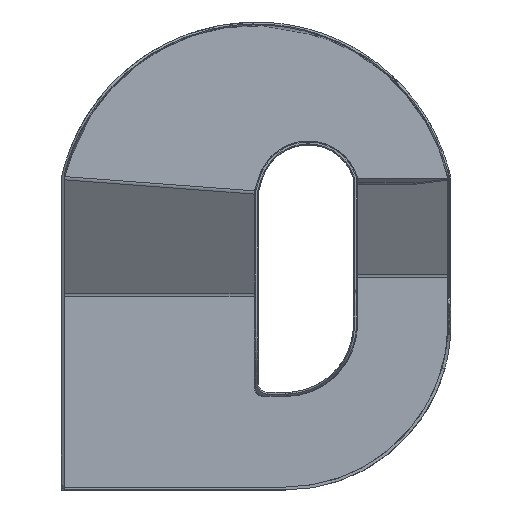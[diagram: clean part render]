
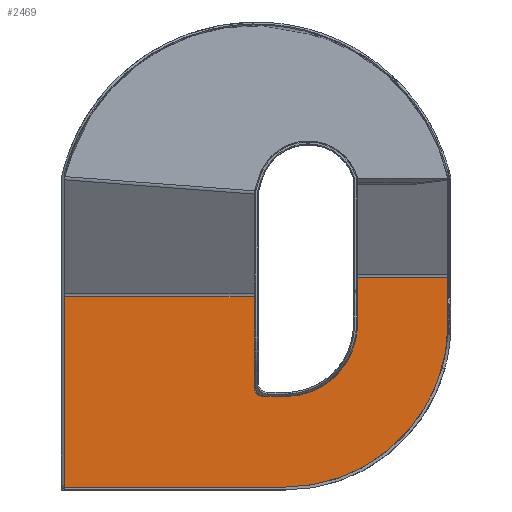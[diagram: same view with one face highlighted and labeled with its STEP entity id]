
A CAD part, top view. The second image highlights one B-rep face of the part: STEP entity #2469.
In plain terms, the highlighted planar face has unit normal (0, 0, 1).
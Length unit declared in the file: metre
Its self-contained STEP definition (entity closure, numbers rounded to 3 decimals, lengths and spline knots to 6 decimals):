
#135=PLANE('',#2674);
#194=CIRCLE('',#2675,0.037);
#195=CIRCLE('',#2676,0.005);
#196=CIRCLE('',#2677,0.0835);
#461=ORIENTED_EDGE('',*,*,#1176,.F.);
#462=ORIENTED_EDGE('',*,*,#1222,.T.);
#463=ORIENTED_EDGE('',*,*,#1142,.T.);
#464=ORIENTED_EDGE('',*,*,#1223,.F.);
#465=ORIENTED_EDGE('',*,*,#1080,.F.);
#466=ORIENTED_EDGE('',*,*,#1224,.T.);
#467=ORIENTED_EDGE('',*,*,#1087,.T.);
#468=ORIENTED_EDGE('',*,*,#1225,.T.);
#469=ORIENTED_EDGE('',*,*,#1226,.F.);
#470=ORIENTED_EDGE('',*,*,#1227,.F.);
#471=ORIENTED_EDGE('',*,*,#1228,.F.);
#1080=EDGE_CURVE('',#1465,#1462,#1706,.T.);
#1087=EDGE_CURVE('',#1473,#1472,#1710,.T.);
#1142=EDGE_CURVE('',#1525,#1524,#1747,.T.);
#1176=EDGE_CURVE('',#1558,#1559,#1769,.T.);
#1222=EDGE_CURVE('',#1558,#1525,#1810,.T.);
#1223=EDGE_CURVE('',#1462,#1524,#194,.T.);
#1224=EDGE_CURVE('',#1465,#1473,#195,.F.);
#1225=EDGE_CURVE('',#1472,#1601,#1811,.T.);
#1226=EDGE_CURVE('',#1602,#1601,#1812,.T.);
#1227=EDGE_CURVE('',#1603,#1602,#1813,.T.);
#1228=EDGE_CURVE('',#1559,#1603,#196,.F.);
#1462=VERTEX_POINT('',#3613);
#1465=VERTEX_POINT('',#3618);
#1472=VERTEX_POINT('',#3633);
#1473=VERTEX_POINT('',#3635);
#1524=VERTEX_POINT('',#3826);
#1525=VERTEX_POINT('',#3828);
#1558=VERTEX_POINT('',#3900);
#1559=VERTEX_POINT('',#3902);
#1601=VERTEX_POINT('',#4034);
#1602=VERTEX_POINT('',#4036);
#1603=VERTEX_POINT('',#4038);
#1706=LINE('',#3619,#1900);
#1710=LINE('',#3634,#1904);
#1747=LINE('',#3827,#1941);
#1769=LINE('',#3901,#1963);
#1810=LINE('',#4030,#2004);
#1811=LINE('',#4033,#2005);
#1812=LINE('',#4035,#2006);
#1813=LINE('',#4037,#2007);
#1900=VECTOR('',#2904,1.);
#1904=VECTOR('',#2916,1.);
#1941=VECTOR('',#2991,1.);
#1963=VECTOR('',#3039,1.);
#2004=VECTOR('',#3104,1.);
#2005=VECTOR('',#3109,1.);
#2006=VECTOR('',#3110,1.);
#2007=VECTOR('',#3111,1.);
#2110=EDGE_LOOP('',(#461,#462,#463,#464,#465,#466,#467,#468,#469,#470,#471));
#2260=FACE_BOUND('',#2110,.T.);
#2469=ADVANCED_FACE('',(#2260),#135,.T.);
#2674=AXIS2_PLACEMENT_3D('',#4029,#3102,#3103);
#2675=AXIS2_PLACEMENT_3D('',#4031,#3105,#3106);
#2676=AXIS2_PLACEMENT_3D('',#4032,#3107,#3108);
#2677=AXIS2_PLACEMENT_3D('',#4039,#3112,#3113);
#2904=DIRECTION('',(1.,0.,0.));
#2916=DIRECTION('',(0.,1.,0.));
#2991=DIRECTION('',(0.,-1.,0.));
#3039=DIRECTION('',(0.,-1.,0.));
#3102=DIRECTION('',(0.,0.,1.));
#3103=DIRECTION('',(0.,-1.,0.));
#3104=DIRECTION('',(-1.,0.,0.));
#3105=DIRECTION('',(0.,0.,1.));
#3106=DIRECTION('',(0.,-1.,0.));
#3107=DIRECTION('',(0.,0.,1.));
#3108=DIRECTION('',(0.,-1.,0.));
#3109=DIRECTION('',(-1.,0.,0.));
#3110=DIRECTION('',(0.,1.,0.));
#3111=DIRECTION('',(-1.,0.,0.));
#3112=DIRECTION('',(0.,0.,1.));
#3113=DIRECTION('',(0.,-1.,0.));
#3613=CARTESIAN_POINT('',(0.015,0.048,0.));
#3618=CARTESIAN_POINT('',(0.004,0.048,0.));
#3619=CARTESIAN_POINT('',(-0.05,0.048,0.));
#3633=CARTESIAN_POINT('',(-0.001,0.099092,0.));
#3634=CARTESIAN_POINT('',(-0.001,0.,0.));
#3635=CARTESIAN_POINT('',(-0.001,0.053,0.));
#3826=CARTESIAN_POINT('',(0.051894,0.082199,0.));
#3827=CARTESIAN_POINT('',(0.051894,0.,0.));
#3828=CARTESIAN_POINT('',(0.051894,0.109169,0.));
#3900=CARTESIAN_POINT('',(0.0985,0.109169,0.));
#3901=CARTESIAN_POINT('',(0.0985,0.,0.));
#3902=CARTESIAN_POINT('',(0.0985,0.085,0.));
#4029=CARTESIAN_POINT('',(-0.05,0.,0.));
#4030=CARTESIAN_POINT('',(0.051894,0.109169,0.));
#4031=CARTESIAN_POINT('',(0.015,0.085,0.));
#4032=CARTESIAN_POINT('',(0.004,0.053,0.));
#4033=CARTESIAN_POINT('',(-0.0985,0.099092,0.));
#4034=CARTESIAN_POINT('',(-0.0985,0.099092,0.));
#4035=CARTESIAN_POINT('',(-0.0985,0.,0.));
#4036=CARTESIAN_POINT('',(-0.0985,0.0015,0.));
#4037=CARTESIAN_POINT('',(-0.05,0.0015,0.));
#4038=CARTESIAN_POINT('',(0.015,0.0015,0.));
#4039=CARTESIAN_POINT('',(0.015,0.085,0.));
